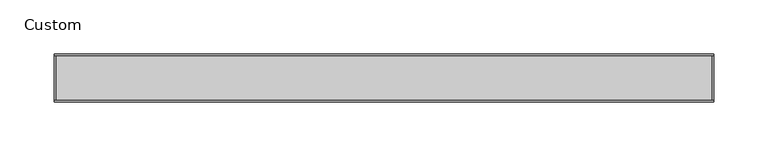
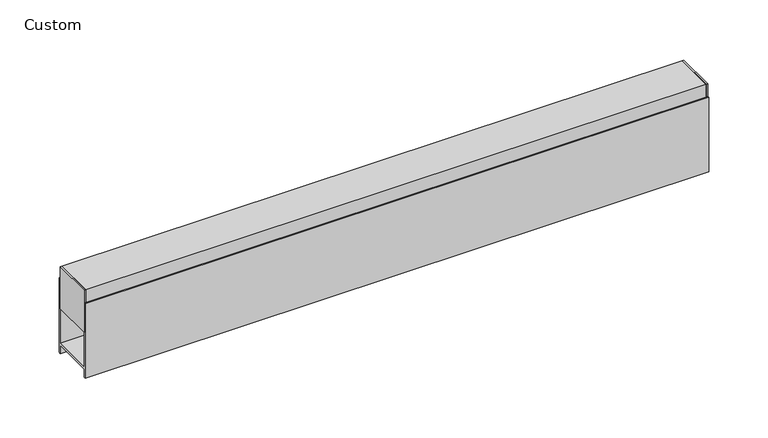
"""IFC4 building model written with IfcOpenShell, lengths in millimetres: light fixture geometry, Lighting-Pendant-Axis-Sculpt-Linear-Direct : Custom."""

import ifcopenshell
import ifcopenshell.guid

model = None  # the IFC model being written
_history = None  # IfcOwnerHistory: only IFC2X3 demands one
_inside = {}  # id of a spatial element -> (the spatial element, [elements in it])
_under = {}  # id of a project, library or spatial element -> (it, [spatial elements below it])
_declared = {}  # id of a project -> (the project, [libraries it declares])
_typed = {}  # id of a type object -> (the type object, [elements of that type])
_made_of = {}  # id of a material, layer set ... -> (it, [elements and type objects made of it])


def new_model(schema):
    """Start an empty IFC model of exactly this schema.

    Asked for "IFC4X3", IfcOpenShell would pick the latest addendum, in which some entities
    have other attributes; the version numbers below select the first issue.
    IFC2X3 requires an IfcOwnerHistory on every rooted entity: one is made here for all.
    """
    global model, _history
    if schema == "IFC4X3":
        model = ifcopenshell.file(schema_version=(4, 3, 0, 0))
    else:
        model = ifcopenshell.file(schema=schema)
    _inside.clear()
    _under.clear()
    _declared.clear()
    _typed.clear()
    _made_of.clear()
    _history = None
    if model.schema == "IFC2X3":
        org = make("IfcOrganization", Name="unknown")
        user = make(
            "IfcPersonAndOrganization",
            ThePerson=make("IfcPerson", FamilyName="unknown"),
            TheOrganization=org,
        )
        app = make(
            "IfcApplication",
            ApplicationDeveloper=org,
            Version="unknown",
            ApplicationFullName="unknown",
            ApplicationIdentifier="unknown",
        )
        _history = make(
            "IfcOwnerHistory",
            OwningUser=user,
            OwningApplication=app,
            ChangeAction="ADDED",
            CreationDate=0,
        )
    return model


def make(cls, **values):
    """One entity of the class cls with the attributes given. An attribute that is None is left unset."""
    return model.create_entity(
        cls, **{name: value for name, value in values.items() if value is not None}
    )


def rooted(cls, **values):
    """An entity with a GlobalId (a new one), such as an element, a storey or a relation."""
    return make(cls, GlobalId=ifcopenshell.guid.new(), OwnerHistory=_history, **values)


def si_unit(unit_type, name, prefix=None):
    """IfcSIUnit, for example si_unit("LENGTHUNIT", "METRE", prefix="MILLI")."""
    return make("IfcSIUnit", UnitType=unit_type, Prefix=prefix, Name=name)


def assignment(units):
    """IfcUnitAssignment: the units of a project."""
    return None if units is None else make("IfcUnitAssignment", Units=units)


def point(xyz):
    """IfcCartesianPoint."""
    return None if xyz is None else make("IfcCartesianPoint", Coordinates=xyz)


def direction(xyz):
    """IfcDirection."""
    return None if xyz is None else make("IfcDirection", DirectionRatios=xyz)


def frame(location, z_axis=None, x_axis=None):
    """IfcAxis2Placement3D, a coordinate frame: its origin and axes. An axis left out is left unset."""
    return make(
        "IfcAxis2Placement3D",
        Location=point(location),
        Axis=direction(z_axis),
        RefDirection=direction(x_axis),
    )


def origin():
    """The frame at (0, 0, 0) with its axes left unset."""
    return frame((0.0, 0.0, 0.0))


def place(relative_to, where):
    """IfcLocalPlacement: puts the frame where relative to a parent placement (None: the world)."""
    return make(
        "IfcLocalPlacement", PlacementRelTo=relative_to, RelativePlacement=where
    )


def context(
    kind, dimensions, precision=None, world=None, true_north=None, identifier=None
):
    """IfcGeometricRepresentationContext, for example the 3D "Model" context."""
    return make(
        "IfcGeometricRepresentationContext",
        ContextIdentifier=identifier,
        ContextType=kind,
        CoordinateSpaceDimension=dimensions,
        Precision=precision,
        WorldCoordinateSystem=world,
        TrueNorth=true_north,
    )


def project(units=None, contexts=None):
    """IfcProject with its units and contexts."""
    return rooted(
        "IfcProject",
        Name="project",
        RepresentationContexts=contexts,
        UnitsInContext=assignment(units),
    )


def spatial(cls, under=None, at=None, **own):
    """A site, building, storey or space (cls), placed at a placement, below another one or the project."""
    s = rooted(cls, ObjectPlacement=at, **own)
    if under is not None:
        _under.setdefault(under.id(), (under, []))[1].append(s)
    return s


def polyline(points):
    """IfcPolyline through the points."""
    return make("IfcPolyline", Points=[point(p) for p in points])


def outline(outer, holes=None, kind="AREA"):
    """IfcArbitraryClosedProfileDef: a profile drawn as a closed curve; with holes, ...WithVoids."""
    if holes is None:
        return make("IfcArbitraryClosedProfileDef", ProfileType=kind, OuterCurve=outer)
    return make(
        "IfcArbitraryProfileDefWithVoids",
        ProfileType=kind,
        OuterCurve=outer,
        InnerCurves=holes,
    )


def extrude(swept, where, along, depth):
    """IfcExtrudedAreaSolid: the profile swept, set in the frame where, extruded along a direction by depth."""
    return make(
        "IfcExtrudedAreaSolid",
        SweptArea=swept,
        Position=where,
        ExtrudedDirection=direction(along),
        Depth=depth,
    )


def shape(context_of_items, identifier, shape_type, items):
    """IfcShapeRepresentation: the items that make up one representation, for example the "Body"."""
    return make(
        "IfcShapeRepresentation",
        ContextOfItems=context_of_items,
        RepresentationIdentifier=identifier,
        RepresentationType=shape_type,
        Items=items,
    )


def source(mapping_origin, context_of_items, identifier, shape_type, items):
    """IfcRepresentationMap: a shape defined once, which mapped items show again and again."""
    return make(
        "IfcRepresentationMap",
        MappingOrigin=mapping_origin,
        MappedRepresentation=shape(context_of_items, identifier, shape_type, items),
    )


def transform(
    local_origin,
    x_axis=None,
    y_axis=None,
    z_axis=None,
    scale=None,
    scale2=None,
    scale3=None,
    uniform=True,
):
    """IfcCartesianTransformationOperator3D, or its non-uniform kind. x_axis, y_axis, z_axis: its Axis1, 2, 3."""
    if uniform:
        return make(
            "IfcCartesianTransformationOperator3D",
            Axis1=direction(x_axis),
            Axis2=direction(y_axis),
            LocalOrigin=point(local_origin),
            Scale=scale,
            Axis3=direction(z_axis),
        )
    return make(
        "IfcCartesianTransformationOperator3DnonUniform",
        Axis1=direction(x_axis),
        Axis2=direction(y_axis),
        LocalOrigin=point(local_origin),
        Scale=scale,
        Axis3=direction(z_axis),
        Scale2=scale2,
        Scale3=scale3,
    )


def mapped(mapping_source, mapping_target):
    """IfcMappedItem: shows the shape of a source again, moved by a transform."""
    return make(
        "IfcMappedItem", MappingSource=mapping_source, MappingTarget=mapping_target
    )


def made_of(thing, what):
    """Note that an element or type object is made of a material, layer set ...; save() writes the relation."""
    if what is not None:
        _made_of.setdefault(what.id(), (what, []))[1].append(thing)
    return thing


def element(
    cls,
    number,
    at=None,
    inside=None,
    cuts=None,
    type_object=None,
    material=None,
    context=None,
    identifier="Body",
    shape_type=None,
    held_by="IfcProductDefinitionShape",
    body=None,
    shapes=None,
    **own,
):
    """One element of the class cls, such as IfcWall. Its Tag is "e" and its number.

    at: its placement. inside: the storey or other place that contains it. cuts: it is an
    opening in that element (IfcRelVoidsElement). A single representation is given by context,
    identifier, shape_type and body (its items); several are given by shapes. held_by: the class
    of the entity that holds the representations. save() writes the other relations.
    """
    e = rooted(cls, Tag="e%d" % number, ObjectPlacement=at, **own)
    if body is not None:
        shapes = [shape(context, identifier, shape_type, body)]
    if shapes is not None:
        e.Representation = make(held_by, Representations=shapes)
    if inside is not None:
        _inside.setdefault(inside.id(), (inside, []))[1].append(e)
    if cuts is not None:
        rooted(
            "IfcRelVoidsElement", RelatingBuildingElement=cuts, RelatedOpeningElement=e
        )
    if type_object is not None:
        _typed.setdefault(type_object.id(), (type_object, []))[1].append(e)
    return made_of(e, material)


def aggregate(whole, parts):
    """IfcRelAggregates: a whole, such as a stair, and the parts it consists of."""
    return rooted("IfcRelAggregates", RelatingObject=whole, RelatedObjects=parts)


def save(model, path):
    """Write the relations noted so far, then the file.

    IfcRelAggregates (storeys below a building ...), IfcRelContainedInSpatialStructure (elements
    in a storey), IfcRelDefinesByType, IfcRelAssociatesMaterial and IfcRelDeclares: one each for
    every whole, place, type object, material and project.
    """
    for whole, parts in _under.values():
        aggregate(whole, parts)
    for where, things in _inside.values():
        rooted(
            "IfcRelContainedInSpatialStructure",
            RelatedElements=things,
            RelatingStructure=where,
        )
    for kind, things in _typed.values():
        rooted("IfcRelDefinesByType", RelatedObjects=things, RelatingType=kind)
    for what, things in _made_of.values():
        rooted("IfcRelAssociatesMaterial", RelatedObjects=things, RelatingMaterial=what)
    for by, libraries in _declared.values():
        rooted("IfcRelDeclares", RelatingContext=by, RelatedDefinitions=libraries)
    model.write(path)


def custom_756293e9(model_context):
    return source(origin(), model_context, "Body", "SweptSolid", [
        extrude(outline(polyline([(-303.276, 20.193), (-303.276, -20.193), (-304.8, -20.193), (-304.8, 20.193), (-303.276, 20.193)])), frame((0.0, 0.0, 656.11502), z_axis=(0.0, 0.0, 1.0), x_axis=(1.0, 0.0, 0.0)), (0.0, 0.0, 1.0), 43.18),
        extrude(outline(polyline([(303.276, 20.193), (304.8, 20.193), (304.8, -20.193), (303.276, -20.193), (303.276, 20.193)])), frame((0.0, 0.0, 656.11502), z_axis=(0.0, 0.0, 1.0), x_axis=(1.0, 0.0, 0.0)), (0.0, 0.0, 1.0), 43.18),
        extrude(outline(polyline([(18.669, 656.11502), (18.669, 697.77102), (-18.669, 697.77102), (-18.669, 656.11502), (-20.193, 656.11502), (-20.193, 699.29502), (20.193, 699.29502), (20.193, 656.11502), (18.669, 656.11502)])), frame((-303.276, 0.0, 0.0), z_axis=(1.0, 0.0, 0.0), x_axis=(0.0, 1.0, 0.0)), (0.0, 0.0, 1.0), 606.552),
        extrude(outline(polyline([(-20.193, 620.0775), (20.193, 620.0775), (20.193, 686.59375), (22.225, 686.59375), (22.225, 609.6), (20.193, 609.6), (20.193, 618.0455), (-20.193, 618.0455), (-20.193, 609.6), (-22.225, 609.6), (-22.225, 686.59375), (-20.193, 686.59375), (-20.193, 620.0775)])), frame((-304.8, 0.0, 0.0), z_axis=(1.0, 0.0, 0.0), x_axis=(0.0, 1.0, 0.0)), (0.0, 0.0, 1.0), 609.6),
    ])


if __name__ == "__main__":
    model = new_model("IFC4")
    model_context = context("Model", 3, world=origin())
    ifc_project = project(units=[si_unit("LENGTHUNIT", "METRE", prefix="MILLI")], contexts=[model_context])
    site = spatial("IfcSite", under=ifc_project)
    building = spatial("IfcBuilding", under=site)
    placement = place(None, origin())
    custom_shape = custom_756293e9(model_context)
    element("IfcLightFixture", 1, ObjectType="Lighting-Pendant-Axis-Sculpt-Linear-Direct : Custom", at=placement, inside=building, context=model_context, shape_type="MappedRepresentation", body=[
        mapped(custom_shape, transform((0.0, 0.0, 0.0), x_axis=(1.0, 0.0, 0.0), y_axis=(0.0, 1.0, 0.0), z_axis=(0.0, 0.0, 1.0))),
    ])
    save(model, "model.ifc")
